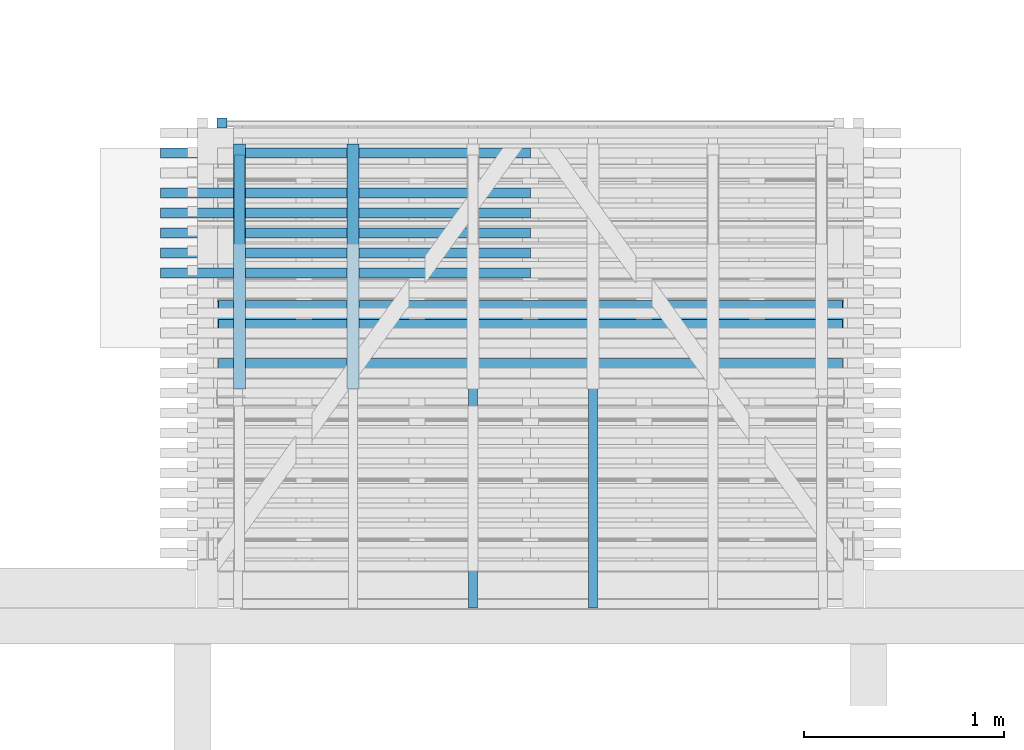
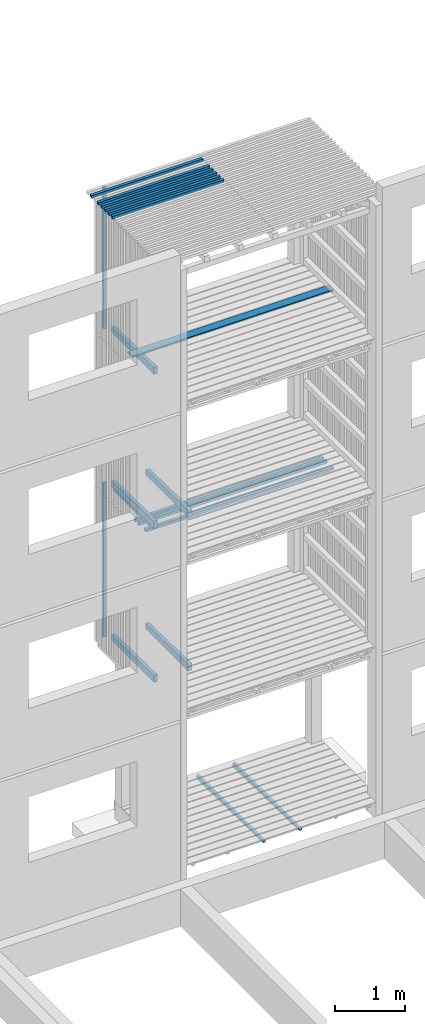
# One storey, part 94 of 182: 20 beams.
"""IFC2X3 building model written with IfcOpenShell, lengths in metres."""

import ifcopenshell
import ifcopenshell.guid

model = None  # the IFC model being written
_history = None  # IfcOwnerHistory: only IFC2X3 demands one
_inside = {}  # id of a spatial element -> (the spatial element, [elements in it])
_under = {}  # id of a project, library or spatial element -> (it, [spatial elements below it])
_declared = {}  # id of a project -> (the project, [libraries it declares])
_typed = {}  # id of a type object -> (the type object, [elements of that type])
_made_of = {}  # id of a material, layer set ... -> (it, [elements and type objects made of it])


def new_model(schema):
    """Start an empty IFC model of exactly this schema.

    Asked for "IFC4X3", IfcOpenShell would pick the latest addendum, in which some entities
    have other attributes; the version numbers below select the first issue.
    IFC2X3 requires an IfcOwnerHistory on every rooted entity: one is made here for all.
    """
    global model, _history
    if schema == "IFC4X3":
        model = ifcopenshell.file(schema_version=(4, 3, 0, 0))
    else:
        model = ifcopenshell.file(schema=schema)
    _inside.clear()
    _under.clear()
    _declared.clear()
    _typed.clear()
    _made_of.clear()
    _history = None
    if model.schema == "IFC2X3":
        org = make("IfcOrganization", Name="unknown")
        user = make(
            "IfcPersonAndOrganization",
            ThePerson=make("IfcPerson", FamilyName="unknown"),
            TheOrganization=org,
        )
        app = make(
            "IfcApplication",
            ApplicationDeveloper=org,
            Version="unknown",
            ApplicationFullName="unknown",
            ApplicationIdentifier="unknown",
        )
        _history = make(
            "IfcOwnerHistory",
            OwningUser=user,
            OwningApplication=app,
            ChangeAction="ADDED",
            CreationDate=0,
        )
    return model


def make(cls, **values):
    """One entity of the class cls with the attributes given. An attribute that is None is left unset."""
    return model.create_entity(
        cls, **{name: value for name, value in values.items() if value is not None}
    )


def rooted(cls, **values):
    """An entity with a GlobalId (a new one), such as an element, a storey or a relation."""
    return make(cls, GlobalId=ifcopenshell.guid.new(), OwnerHistory=_history, **values)


def si_unit(unit_type, name, prefix=None):
    """IfcSIUnit, for example si_unit("LENGTHUNIT", "METRE", prefix="MILLI")."""
    return make("IfcSIUnit", UnitType=unit_type, Prefix=prefix, Name=name)


def assignment(units):
    """IfcUnitAssignment: the units of a project."""
    return None if units is None else make("IfcUnitAssignment", Units=units)


def point(xyz):
    """IfcCartesianPoint."""
    return None if xyz is None else make("IfcCartesianPoint", Coordinates=xyz)


def direction(xyz):
    """IfcDirection."""
    return None if xyz is None else make("IfcDirection", DirectionRatios=xyz)


def frame(location, z_axis=None, x_axis=None):
    """IfcAxis2Placement3D, a coordinate frame: its origin and axes. An axis left out is left unset."""
    return make(
        "IfcAxis2Placement3D",
        Location=point(location),
        Axis=direction(z_axis),
        RefDirection=direction(x_axis),
    )


def origin():
    """The frame at (0, 0, 0) with its axes left unset."""
    return frame((0.0, 0.0, 0.0))


def place(relative_to, where):
    """IfcLocalPlacement: puts the frame where relative to a parent placement (None: the world)."""
    return make(
        "IfcLocalPlacement", PlacementRelTo=relative_to, RelativePlacement=where
    )


def context(
    kind, dimensions, precision=None, world=None, true_north=None, identifier=None
):
    """IfcGeometricRepresentationContext, for example the 3D "Model" context."""
    return make(
        "IfcGeometricRepresentationContext",
        ContextIdentifier=identifier,
        ContextType=kind,
        CoordinateSpaceDimension=dimensions,
        Precision=precision,
        WorldCoordinateSystem=world,
        TrueNorth=true_north,
    )


def project(units=None, contexts=None):
    """IfcProject with its units and contexts."""
    return rooted(
        "IfcProject",
        Name="project",
        RepresentationContexts=contexts,
        UnitsInContext=assignment(units),
    )


def spatial(cls, under=None, at=None, **own):
    """A site, building, storey or space (cls), placed at a placement, below another one or the project."""
    s = rooted(cls, ObjectPlacement=at, **own)
    if under is not None:
        _under.setdefault(under.id(), (under, []))[1].append(s)
    return s


def faces_of(points, faces, orient=None, outer=None):
    """IfcFace entities. A face is a list of loops; a loop is a list of indices into points, from 0.

    orient and outer hold one flag for each loop. By default every Orientation is true, the
    first loop of a face is its IfcFaceOuterBound and the others are IfcFaceBound.
    """
    made = []
    for i, loops in enumerate(faces):
        bounds = []
        for j, loop in enumerate(loops):
            is_outer = j == 0 if outer is None else outer[i][j]
            bounds.append(
                make(
                    "IfcFaceOuterBound" if is_outer else "IfcFaceBound",
                    Bound=make("IfcPolyLoop", Polygon=[points[k] for k in loop]),
                    Orientation=True if orient is None else orient[i][j],
                )
            )
        made.append(make("IfcFace", Bounds=bounds))
    return made


def faceted_brep(points, faces, orient=None, outer=None, voids=None):
    """IfcFacetedBrep: a solid bounded by flat faces; with voids (closed shells), ...WithVoids."""
    shared = [point(p) for p in points]
    hull = make("IfcClosedShell", CfsFaces=faces_of(shared, faces, orient, outer))
    if voids is None:
        return make("IfcFacetedBrep", Outer=hull)
    return make(
        "IfcFacetedBrepWithVoids",
        Outer=hull,
        Voids=[
            make(cls, CfsFaces=faces_of(shared, fs, o, b)) for cls, fs, o, b in voids
        ],
    )


def shape(context_of_items, identifier, shape_type, items):
    """IfcShapeRepresentation: the items that make up one representation, for example the "Body"."""
    return make(
        "IfcShapeRepresentation",
        ContextOfItems=context_of_items,
        RepresentationIdentifier=identifier,
        RepresentationType=shape_type,
        Items=items,
    )


def made_of(thing, what):
    """Note that an element or type object is made of a material, layer set ...; save() writes the relation."""
    if what is not None:
        _made_of.setdefault(what.id(), (what, []))[1].append(thing)
    return thing


def element(
    cls,
    number,
    at=None,
    inside=None,
    cuts=None,
    type_object=None,
    material=None,
    context=None,
    identifier="Body",
    shape_type=None,
    held_by="IfcProductDefinitionShape",
    body=None,
    shapes=None,
    **own,
):
    """One element of the class cls, such as IfcWall. Its Tag is "e" and its number.

    at: its placement. inside: the storey or other place that contains it. cuts: it is an
    opening in that element (IfcRelVoidsElement). A single representation is given by context,
    identifier, shape_type and body (its items); several are given by shapes. held_by: the class
    of the entity that holds the representations. save() writes the other relations.
    """
    e = rooted(cls, Tag="e%d" % number, ObjectPlacement=at, **own)
    if body is not None:
        shapes = [shape(context, identifier, shape_type, body)]
    if shapes is not None:
        e.Representation = make(held_by, Representations=shapes)
    if inside is not None:
        _inside.setdefault(inside.id(), (inside, []))[1].append(e)
    if cuts is not None:
        rooted(
            "IfcRelVoidsElement", RelatingBuildingElement=cuts, RelatedOpeningElement=e
        )
    if type_object is not None:
        _typed.setdefault(type_object.id(), (type_object, []))[1].append(e)
    return made_of(e, material)


def aggregate(whole, parts):
    """IfcRelAggregates: a whole, such as a stair, and the parts it consists of."""
    return rooted("IfcRelAggregates", RelatingObject=whole, RelatedObjects=parts)


def save(model, path):
    """Write the relations noted so far, then the file.

    IfcRelAggregates (storeys below a building ...), IfcRelContainedInSpatialStructure (elements
    in a storey), IfcRelDefinesByType, IfcRelAssociatesMaterial and IfcRelDeclares: one each for
    every whole, place, type object, material and project.
    """
    for whole, parts in _under.values():
        aggregate(whole, parts)
    for where, things in _inside.values():
        rooted(
            "IfcRelContainedInSpatialStructure",
            RelatedElements=things,
            RelatingStructure=where,
        )
    for kind, things in _typed.values():
        rooted("IfcRelDefinesByType", RelatedObjects=things, RelatingType=kind)
    for what, things in _made_of.values():
        rooted("IfcRelAssociatesMaterial", RelatedObjects=things, RelatingMaterial=what)
    for by, libraries in _declared.values():
        rooted("IfcRelDeclares", RelatingContext=by, RelatedDefinitions=libraries)
    model.write(path)


model = new_model("IFC2X3")

# Units and contexts
model_context = context("Model", 3, precision=1e-06, world=origin())
ifc_project = project(units=[si_unit("LENGTHUNIT", "METRE"), si_unit("PLANEANGLEUNIT", "RADIAN")], contexts=[model_context])

# Site, building, storey
site = spatial("IfcSite", under=ifc_project, CompositionType="ELEMENT")
building = spatial("IfcBuilding", under=site, CompositionType="ELEMENT")
storey = spatial("IfcBuildingStorey", under=building, Name="vs", CompositionType="ELEMENT", Elevation=-0.85)

# Beams
placement = place(None, origin())
beam_1_placement = place(placement, frame((44.993401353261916, 4.870077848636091, -0.015599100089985), z_axis=(0.0, 0.0, 1.0), x_axis=(0.0, 1.0, 0.0)))
element("IfcBeam", 1, at=beam_1_placement, inside=storey, Name="Calage", context=model_context, shape_type="Brep", body=[
    faceted_brep([(0.0, 0.02249999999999, 0.002600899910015), (1.91000000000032, 0.02249999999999, -0.035599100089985), (1.91000000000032, -0.022499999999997, -0.035599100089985), (0.0, -0.022499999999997, 0.002600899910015), (0.0, -0.022499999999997, 0.035599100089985), (0.0, 0.02249999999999, 0.035599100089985), (0.0, 0.02249999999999, 0.002600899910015), (0.0, -0.022499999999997, 0.002600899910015), (0.0, 0.02249999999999, 0.035599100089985), (0.0, -0.022499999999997, 0.035599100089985), (1.91000000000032, -0.022499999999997, 0.035599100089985), (1.91000000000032, 0.02249999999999, 0.035599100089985), (0.0, 0.02249999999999, 0.002600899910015), (0.0, 0.02249999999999, 0.035599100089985), (1.91000000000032, 0.02249999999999, 0.035599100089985), (1.91000000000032, 0.02249999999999, -0.035599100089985), (1.91000000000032, 0.02249999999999, -0.035599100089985), (1.91000000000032, 0.02249999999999, 0.035599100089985), (1.91000000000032, -0.022499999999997, 0.035599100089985), (1.91000000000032, -0.022499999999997, -0.035599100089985), (1.91000000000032, -0.022499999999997, -0.035599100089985), (1.91000000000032, -0.022499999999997, 0.035599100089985), (0.0, -0.022499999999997, 0.035599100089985), (0.0, -0.022499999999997, 0.002600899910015)], [[[0, 1, 2, 3]], [[4, 5, 6, 7]], [[8, 9, 10, 11]], [[12, 13, 14, 15]], [[16, 17, 18, 19]], [[20, 21, 22, 23]]]),
])
beam_2_placement = place(placement, frame((44.39340135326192, 4.870077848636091, -0.015599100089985), z_axis=(0.0, 0.0, 1.0), x_axis=(0.0, 1.0, 0.0)))
element("IfcBeam", 2, at=beam_2_placement, inside=storey, Name="Calage", context=model_context, shape_type="Brep", body=[
    faceted_brep([(0.0, 0.022500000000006, 0.002600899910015), (1.91000000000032, 0.022500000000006, -0.035599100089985), (1.91000000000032, -0.022499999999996, -0.035599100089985), (0.0, -0.022499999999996, 0.002600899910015), (0.0, -0.022499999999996, 0.035599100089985), (0.0, 0.022500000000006, 0.035599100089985), (0.0, 0.022500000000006, 0.002600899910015), (0.0, -0.022499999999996, 0.002600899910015), (0.0, 0.022500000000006, 0.035599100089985), (0.0, -0.022499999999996, 0.035599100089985), (1.910000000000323, -0.022499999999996, 0.035599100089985), (1.910000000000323, 0.022500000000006, 0.035599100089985), (0.0, 0.022500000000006, 0.002600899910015), (0.0, 0.022500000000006, 0.035599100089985), (1.910000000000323, 0.022500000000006, 0.035599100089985), (1.91000000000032, 0.022500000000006, -0.035599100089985), (1.91000000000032, 0.022500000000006, -0.035599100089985), (1.910000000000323, 0.022500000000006, 0.035599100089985), (1.910000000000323, -0.022499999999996, 0.035599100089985), (1.91000000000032, -0.022499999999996, -0.035599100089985), (1.91000000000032, -0.022499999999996, -0.035599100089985), (1.910000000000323, -0.022499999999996, 0.035599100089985), (0.0, -0.022499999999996, 0.035599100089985), (0.0, -0.022499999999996, 0.002600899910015)], [[[0, 1, 2, 3]], [[4, 5, 6, 7]], [[8, 9, 10, 11]], [[12, 13, 14, 15]], [[16, 17, 18, 19]], [[20, 21, 22, 23]]]),
])
beam_3_placement = place(placement, frame((46.240401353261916, 6.38341118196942, 5.167399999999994), z_axis=(0.0, 0.0, 1.0), x_axis=(-1.0, 0.0, 0.0)))
element("IfcBeam", 3, at=beam_3_placement, inside=storey, Name="Bardage", context=model_context, shape_type="Brep", body=[
    faceted_brep([(3.120000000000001, 0.024999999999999, -0.024999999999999), (3.120000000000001, 0.024999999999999, 0.025), (3.120000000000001, -0.025000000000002, 0.025), (3.120000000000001, -0.025000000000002, -0.024999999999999), (-3e-15, -0.025000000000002, -0.024999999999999), (-3e-15, -0.025000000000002, 0.025), (-3e-15, 0.024999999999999, 0.025), (-3e-15, 0.024999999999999, -0.024999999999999), (-3e-15, 0.024999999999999, -0.024999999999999), (-3e-15, 0.024999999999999, 0.025), (3.120000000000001, 0.024999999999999, 0.025), (3.120000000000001, 0.024999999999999, -0.024999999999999), (-3e-15, 0.024999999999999, 0.025), (-3e-15, -0.025000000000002, 0.025), (3.120000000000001, -0.025000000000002, 0.025), (3.120000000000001, 0.024999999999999, 0.025), (-3e-15, -0.025000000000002, 0.025), (-3e-15, -0.025000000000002, -0.024999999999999), (3.120000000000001, -0.025000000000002, -0.024999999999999), (3.120000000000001, -0.025000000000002, 0.025), (-3e-15, -0.025000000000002, -0.024999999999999), (-3e-15, 0.024999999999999, -0.024999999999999), (3.120000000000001, 0.024999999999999, -0.024999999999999), (3.120000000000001, -0.025000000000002, -0.024999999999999)], [[[0, 1, 2, 3]], [[4, 5, 6, 7]], [[8, 9, 10, 11]], [[12, 13, 14, 15]], [[16, 17, 18, 19]], [[20, 21, 22, 23]]]),
])
beam_4_placement = place(placement, frame((46.240401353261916, 6.286327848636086, 5.167399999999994), z_axis=(0.0, 0.0, 1.0), x_axis=(-1.0, 0.0, 0.0)))
element("IfcBeam", 4, at=beam_4_placement, inside=storey, Name="Bardage", context=model_context, shape_type="Brep", body=[
    faceted_brep([(3.120000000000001, 0.024999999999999, -0.024999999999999), (3.120000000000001, 0.024999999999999, 0.025), (3.120000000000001, -0.024999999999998, 0.025), (3.120000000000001, -0.024999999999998, -0.024999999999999), (-3e-15, -0.025000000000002, -0.024999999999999), (-3e-15, -0.025000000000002, 0.025), (-3e-15, 0.024999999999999, 0.025), (-3e-15, 0.024999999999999, -0.024999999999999), (-3e-15, 0.024999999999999, -0.024999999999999), (-3e-15, 0.024999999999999, 0.025), (3.120000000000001, 0.024999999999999, 0.025), (3.120000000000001, 0.024999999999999, -0.024999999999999), (-3e-15, 0.024999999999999, 0.025), (-3e-15, -0.025000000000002, 0.025), (3.120000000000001, -0.024999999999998, 0.025), (3.120000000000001, 0.024999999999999, 0.025), (-3e-15, -0.025000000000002, 0.025), (-3e-15, -0.025000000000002, -0.024999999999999), (3.120000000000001, -0.024999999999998, -0.024999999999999), (3.120000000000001, -0.024999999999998, 0.025), (-3e-15, -0.025000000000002, -0.024999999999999), (-3e-15, 0.024999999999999, -0.024999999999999), (3.120000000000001, 0.024999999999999, -0.024999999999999), (3.120000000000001, -0.024999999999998, -0.024999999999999)], [[[0, 1, 2, 3]], [[4, 5, 6, 7]], [[8, 9, 10, 11]], [[12, 13, 14, 15]], [[16, 17, 18, 19]], [[20, 21, 22, 23]]]),
])
beam_5_placement = place(placement, frame((46.34540135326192, 6.33457784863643, 8.13349999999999), z_axis=(0.0, 0.0, 1.0), x_axis=(-1.0, -8e-15, 0.0)))
element("IfcBeam", 5, at=beam_5_placement, inside=storey, Name="Caillebotis", context=model_context, shape_type="Brep", body=[
    faceted_brep([(3.329999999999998, -0.072500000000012, -0.013500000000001), (3.329999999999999, 0.072499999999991, -0.013500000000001), (3.329999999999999, 0.072499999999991, 0.008499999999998), (3.329999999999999, 0.067499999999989, 0.013499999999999), (3.329999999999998, -0.067500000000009, 0.013499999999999), (3.329999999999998, -0.072500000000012, 0.0085), (-1e-15, -0.072499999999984, 0.0085), (-1e-15, -0.067499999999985, 0.013499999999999), (1e-15, 0.067500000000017, 0.013499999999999), (1e-15, 0.072500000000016, 0.008499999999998), (1e-15, 0.072500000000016, -0.013500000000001), (-1e-15, -0.072499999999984, -0.013500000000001), (3.329999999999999, 0.072499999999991, 0.008499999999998), (3.329999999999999, 0.072499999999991, -0.013500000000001), (1e-15, 0.072500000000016, -0.013500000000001), (1e-15, 0.072500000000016, 0.008499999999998), (3.329999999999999, 0.067499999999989, 0.013499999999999), (3.329999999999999, 0.072499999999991, 0.008499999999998), (1e-15, 0.072500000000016, 0.008499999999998), (1e-15, 0.067500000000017, 0.013499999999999), (3.329999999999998, -0.067500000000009, 0.013499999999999), (3.329999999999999, 0.067499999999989, 0.013499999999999), (1e-15, 0.067500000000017, 0.013499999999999), (-1e-15, -0.067499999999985, 0.013499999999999), (3.329999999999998, -0.072500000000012, 0.0085), (3.329999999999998, -0.067500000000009, 0.013499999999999), (-1e-15, -0.067499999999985, 0.013499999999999), (-1e-15, -0.072499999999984, 0.0085), (3.329999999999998, -0.072500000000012, -0.013500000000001), (3.329999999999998, -0.072500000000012, 0.0085), (-1e-15, -0.072499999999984, 0.0085), (-1e-15, -0.072499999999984, -0.013500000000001), (1e-15, 0.072500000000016, -0.013500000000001), (3.329999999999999, 0.072499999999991, -0.013500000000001), (3.329999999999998, -0.072500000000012, -0.013500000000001), (-1e-15, -0.072499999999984, -0.013500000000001)], [[[0, 1, 2, 3, 4, 5]], [[6, 7, 8, 9, 10, 11]], [[12, 13, 14, 15]], [[16, 17, 18, 19]], [[20, 21, 22, 23]], [[24, 25, 26, 27]], [[28, 29, 30, 31]], [[32, 33, 34, 35]]]),
])
beam_6_placement = place(placement, frame((46.240401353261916, 6.092161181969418, 5.167399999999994), z_axis=(0.0, 0.0, 1.0), x_axis=(-1.0, 0.0, 0.0)))
element("IfcBeam", 6, at=beam_6_placement, inside=storey, Name="Bardage", context=model_context, shape_type="Brep", body=[
    faceted_brep([(3.120000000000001, 0.024999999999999, -0.025), (3.120000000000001, 0.024999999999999, 0.025), (3.120000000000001, -0.024999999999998, 0.025), (3.120000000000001, -0.024999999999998, -0.025), (-3e-15, -0.025000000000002, -0.025), (-3e-15, -0.025000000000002, 0.025), (-3e-15, 0.024999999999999, 0.025), (-3e-15, 0.024999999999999, -0.025), (-3e-15, 0.024999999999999, -0.025), (-3e-15, 0.024999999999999, 0.025), (3.120000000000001, 0.024999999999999, 0.025), (3.120000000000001, 0.024999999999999, -0.025), (-3e-15, 0.024999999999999, 0.025), (-3e-15, -0.025000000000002, 0.025), (3.120000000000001, -0.024999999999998, 0.025), (3.120000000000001, 0.024999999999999, 0.025), (-3e-15, -0.025000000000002, 0.025), (-3e-15, -0.025000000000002, -0.025), (3.120000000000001, -0.024999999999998, -0.025), (3.120000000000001, -0.024999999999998, 0.025), (-3e-15, -0.025000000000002, -0.025), (-3e-15, 0.024999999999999, -0.025), (3.120000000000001, 0.024999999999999, -0.025), (3.120000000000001, -0.024999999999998, -0.025)], [[[0, 1, 2, 3]], [[4, 5, 6, 7]], [[8, 9, 10, 11]], [[12, 13, 14, 15]], [[16, 17, 18, 19]], [[20, 21, 22, 23]]]),
])
beam_7_placement = place(placement, frame((44.68040135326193, 6.74507784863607, 10.47999999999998), z_axis=(0.0, 0.0, 1.0), x_axis=(-1.0, 0.0, 0.0)))
element("IfcBeam", 7, at=beam_7_placement, inside=storey, Name="Bardage", context=model_context, shape_type="Brep", body=[
    faceted_brep([(1.850000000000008, -0.024999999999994, -0.024999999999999), (1.850000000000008, -0.024999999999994, 0.025000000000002), (-1e-15, -0.024999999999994, 0.025000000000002), (-1e-15, -0.024999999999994, -0.024999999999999), (1.850000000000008, -0.024999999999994, 0.025000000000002), (1.850000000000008, -0.024999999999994, -0.024999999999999), (1.850000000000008, 0.025000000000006, -0.024999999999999), (1.850000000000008, 0.025000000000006, 0.025000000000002), (1.850000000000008, 0.025000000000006, -0.024999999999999), (1.850000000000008, -0.024999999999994, -0.024999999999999), (-1e-15, -0.024999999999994, -0.024999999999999), (-1e-15, 0.025000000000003, -0.024999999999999), (1.850000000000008, 0.025000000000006, 0.025000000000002), (1.850000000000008, 0.025000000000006, -0.024999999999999), (-1e-15, 0.025000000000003, -0.024999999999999), (-1e-15, 0.025000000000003, 0.025000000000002), (-1e-15, -0.024999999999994, 0.025000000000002), (1.850000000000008, -0.024999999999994, 0.025000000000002), (1.850000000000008, 0.025000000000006, 0.025000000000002), (-1e-15, 0.025000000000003, 0.025000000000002), (-1e-15, -0.024999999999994, -0.024999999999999), (-1e-15, -0.024999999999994, 0.025000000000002), (-1e-15, 0.025000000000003, 0.025000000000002), (-1e-15, 0.025000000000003, -0.024999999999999)], [[[0, 1, 2, 3]], [[4, 5, 6, 7]], [[8, 9, 10, 11]], [[12, 13, 14, 15]], [[16, 17, 18, 19]], [[20, 21, 22, 23]]]),
])
beam_8_placement = place(placement, frame((43.225401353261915, 7.135077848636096, 5.217399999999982), z_axis=(0.0, 0.0, 1.0), x_axis=(0.0, -1.0, 0.0)))
element("IfcBeam", 8, at=beam_8_placement, inside=storey, Name="Calage", context=model_context, shape_type="Brep", body=[
    faceted_brep([(0.0, 0.025000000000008, -0.024999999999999), (0.0, -0.024999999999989, -0.024999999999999), (0.0, -0.024999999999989, 0.024999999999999), (0.0, 0.025000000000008, 0.024999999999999), (1.115000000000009, -0.024999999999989, 0.024999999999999), (1.115000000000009, -0.024999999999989, -0.024999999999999), (1.115000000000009, 0.025000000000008, -0.024999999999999), (1.115000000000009, 0.025000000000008, 0.024999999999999), (0.0, -0.024999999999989, 0.024999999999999), (0.0, -0.024999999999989, -0.024999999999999), (1.115000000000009, -0.024999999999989, -0.024999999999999), (1.115000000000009, -0.024999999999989, 0.024999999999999), (1.115000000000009, -0.024999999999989, -0.024999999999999), (0.0, -0.024999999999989, -0.024999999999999), (0.0, 0.025000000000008, -0.024999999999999), (1.115000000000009, 0.025000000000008, -0.024999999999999), (1.115000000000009, 0.025000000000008, -0.024999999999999), (0.0, 0.025000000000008, -0.024999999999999), (0.0, 0.025000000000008, 0.024999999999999), (1.115000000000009, 0.025000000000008, 0.024999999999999), (1.115000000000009, 0.025000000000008, 0.024999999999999), (0.0, 0.025000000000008, 0.024999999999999), (0.0, -0.024999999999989, 0.024999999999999), (1.115000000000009, -0.024999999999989, 0.024999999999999)], [[[0, 1, 2, 3]], [[4, 5, 6, 7]], [[8, 9, 10, 11]], [[12, 13, 14, 15]], [[16, 17, 18, 19]], [[20, 21, 22, 23]]]),
])
beam_9_placement = place(placement, frame((43.79340135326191, 5.965077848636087, 2.604249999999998), z_axis=(0.0, 0.0, 1.0), x_axis=(0.0, 1.0, 0.0)))
element("IfcBeam", 9, at=beam_9_placement, inside=storey, Name="Solive", context=model_context, shape_type="Brep", body=[
    faceted_brep([(0.0, -0.030000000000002, -0.06185), (1.225000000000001, -0.030000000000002, -0.06185), (1.225000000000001, -0.030000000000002, 0.037349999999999), (0.0, -0.030000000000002, 0.06185), (0.0, 0.030000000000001, 0.06185), (0.0, 0.030000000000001, -0.06185), (0.0, -0.030000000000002, -0.06185), (0.0, -0.030000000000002, 0.06185), (0.0, -0.030000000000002, -0.06185), (0.0, 0.030000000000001, -0.06185), (1.225000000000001, 0.030000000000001, -0.06185), (1.225000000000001, -0.030000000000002, -0.06185), (1.225000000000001, 0.030000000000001, -0.06185), (0.0, 0.030000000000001, -0.06185), (0.0, 0.030000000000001, 0.06185), (1.225000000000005, 0.030000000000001, 0.037349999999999), (1.225000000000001, -0.030000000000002, 0.037349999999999), (1.225000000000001, -0.030000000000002, -0.06185), (1.225000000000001, 0.030000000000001, -0.06185), (1.225000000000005, 0.030000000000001, 0.037349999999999), (0.0, -0.030000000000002, 0.06185), (1.225000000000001, -0.030000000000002, 0.037349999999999), (1.225000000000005, 0.030000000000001, 0.037349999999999), (0.0, 0.030000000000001, 0.06185)], [[[0, 1, 2, 3]], [[4, 5, 6, 7]], [[8, 9, 10, 11]], [[12, 13, 14, 15]], [[16, 17, 18, 19]], [[20, 21, 22, 23]]]),
])
beam_10_placement = place(placement, frame((44.68040135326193, 6.845077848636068, 10.47999999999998), z_axis=(0.0, 0.0, 1.0), x_axis=(-1.0, -2e-15, 0.0)))
element("IfcBeam", 10, at=beam_10_placement, inside=storey, Name="Bardage", context=model_context, shape_type="Brep", body=[
    faceted_brep([(1.850000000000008, -0.025000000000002, -0.024999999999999), (1.850000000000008, -0.025000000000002, 0.025000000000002), (-1e-15, -0.024999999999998, 0.025000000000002), (-1e-15, -0.024999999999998, -0.024999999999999), (1.850000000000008, -0.025000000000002, 0.025000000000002), (1.850000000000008, -0.025000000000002, -0.024999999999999), (1.850000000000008, 0.025000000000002, -0.024999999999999), (1.850000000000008, 0.025000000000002, 0.025000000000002), (1.850000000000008, 0.025000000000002, -0.024999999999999), (1.850000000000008, -0.025000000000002, -0.024999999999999), (-1e-15, -0.024999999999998, -0.024999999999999), (0.0, 0.025000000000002, -0.024999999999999), (1.850000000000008, 0.025000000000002, 0.025000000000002), (1.850000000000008, 0.025000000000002, -0.024999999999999), (0.0, 0.025000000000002, -0.024999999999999), (0.0, 0.025000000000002, 0.025000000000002), (-1e-15, -0.024999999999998, 0.025000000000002), (1.850000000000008, -0.025000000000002, 0.025000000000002), (1.850000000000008, 0.025000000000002, 0.025000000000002), (0.0, 0.025000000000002, 0.025000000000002), (-1e-15, -0.024999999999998, -0.024999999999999), (-1e-15, -0.024999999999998, 0.025000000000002), (0.0, 0.025000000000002, 0.025000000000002), (0.0, 0.025000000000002, -0.024999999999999)], [[[0, 1, 2, 3]], [[4, 5, 6, 7]], [[8, 9, 10, 11]], [[12, 13, 14, 15]], [[16, 17, 18, 19]], [[20, 21, 22, 23]]]),
])
beam_11_placement = place(placement, frame((43.225401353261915, 5.965077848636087, 2.604249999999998), z_axis=(0.0, 0.0, 1.0), x_axis=(0.0, 1.0, 0.0)))
element("IfcBeam", 11, at=beam_11_placement, inside=storey, Name="Solive", context=model_context, shape_type="Brep", body=[
    faceted_brep([(0.0, -0.030000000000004, -0.06185), (1.225000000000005, -0.030000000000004, -0.06185), (1.225000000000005, -0.030000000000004, 0.037349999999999), (0.0, -0.030000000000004, 0.06185), (0.0, 0.029999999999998, -0.06185), (1.225000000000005, 0.029999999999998, -0.06185), (1.225000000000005, -0.030000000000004, -0.06185), (0.0, -0.030000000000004, -0.06185), (0.0, 0.029999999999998, 0.06185), (0.0, 0.029999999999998, -0.06185), (0.0, -0.030000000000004, -0.06185), (0.0, -0.030000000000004, 0.06185), (1.225000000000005, 0.029999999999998, -0.06185), (0.0, 0.029999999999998, -0.06185), (0.0, 0.029999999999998, 0.06185), (1.225000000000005, 0.029999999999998, 0.037349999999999), (1.225000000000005, -0.030000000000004, 0.037349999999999), (1.225000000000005, -0.030000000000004, -0.06185), (1.225000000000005, 0.029999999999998, -0.06185), (1.225000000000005, 0.029999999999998, 0.037349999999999), (0.0, -0.030000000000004, 0.06185), (1.225000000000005, -0.030000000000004, 0.037349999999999), (1.225000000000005, 0.029999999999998, 0.037349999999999), (0.0, 0.029999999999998, 0.06185)], [[[0, 1, 2, 3]], [[4, 5, 6, 7]], [[8, 9, 10, 11]], [[12, 13, 14, 15]], [[16, 17, 18, 19]], [[20, 21, 22, 23]]]),
])
beam_12_placement = place(placement, frame((43.13858317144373, 7.295077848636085, 7.974999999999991), z_axis=(0.0, -1.0, 0.0), x_axis=(0.0, 0.0, 1.0)))
element("IfcBeam", 12, at=beam_12_placement, inside=storey, Name="Bardage", context=model_context, shape_type="Brep", body=[
    faceted_brep([(2.479999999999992, -0.025000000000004, 0.024999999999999), (2.479999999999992, -0.025000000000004, -0.024999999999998), (2.479999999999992, 0.025000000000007, -0.024999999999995), (2.479999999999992, 0.024999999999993, 0.025000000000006), (0.0, 0.024999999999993, 0.025000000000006), (0.0, -0.025000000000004, 0.024999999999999), (2.479999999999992, -0.025000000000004, 0.024999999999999), (2.479999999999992, 0.024999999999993, 0.025000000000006), (0.0, -0.025000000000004, 0.024999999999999), (0.0, 0.024999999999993, 0.025000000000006), (0.0, 0.025000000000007, -0.024999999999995), (0.0, -0.025000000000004, -0.025000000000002), (0.0, 0.025000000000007, -0.024999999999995), (0.0, 0.024999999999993, 0.025000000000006), (2.479999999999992, 0.024999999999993, 0.025000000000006), (2.479999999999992, 0.025000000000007, -0.024999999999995), (0.0, -0.025000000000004, -0.025000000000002), (0.0, 0.025000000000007, -0.024999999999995), (2.479999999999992, 0.025000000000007, -0.024999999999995), (2.479999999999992, -0.025000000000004, -0.024999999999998), (2.479999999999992, -0.025000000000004, 0.024999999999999), (0.0, -0.025000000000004, 0.024999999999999), (0.0, -0.025000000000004, -0.025000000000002), (2.479999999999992, -0.025000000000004, -0.024999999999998)], [[[0, 1, 2, 3]], [[4, 5, 6, 7]], [[8, 9, 10, 11]], [[12, 13, 14, 15]], [[16, 17, 18, 19]], [[20, 21, 22, 23]]]),
])
beam_13_placement = place(placement, frame((44.68040135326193, 6.645077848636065, 10.47999999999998), z_axis=(0.0, 0.0, 1.0), x_axis=(-1.0, 0.0, 0.0)))
element("IfcBeam", 13, at=beam_13_placement, inside=storey, Name="Bardage", context=model_context, shape_type="Brep", body=[
    faceted_brep([(1.850000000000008, -0.024999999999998, -0.024999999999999), (1.850000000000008, -0.024999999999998, 0.025000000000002), (-1e-15, -0.024999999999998, 0.025000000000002), (-1e-15, -0.024999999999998, -0.024999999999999), (1.850000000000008, -0.024999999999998, 0.025000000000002), (1.850000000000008, -0.024999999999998, -0.024999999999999), (1.850000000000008, 0.024999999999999, -0.024999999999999), (1.850000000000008, 0.024999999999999, 0.025000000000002), (1.850000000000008, 0.024999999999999, -0.024999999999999), (1.850000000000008, -0.024999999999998, -0.024999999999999), (-1e-15, -0.024999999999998, -0.024999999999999), (-1e-15, 0.024999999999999, -0.024999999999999), (1.850000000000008, 0.024999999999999, 0.025000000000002), (1.850000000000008, 0.024999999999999, -0.024999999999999), (-1e-15, 0.024999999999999, -0.024999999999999), (-1e-15, 0.024999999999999, 0.025000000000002), (-1e-15, -0.024999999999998, 0.025000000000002), (1.850000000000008, -0.024999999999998, 0.025000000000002), (1.850000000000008, 0.024999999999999, 0.025000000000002), (-1e-15, 0.024999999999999, 0.025000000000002), (-1e-15, -0.024999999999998, -0.024999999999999), (-1e-15, -0.024999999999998, 0.025000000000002), (-1e-15, 0.024999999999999, 0.025000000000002), (-1e-15, 0.024999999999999, -0.024999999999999)], [[[0, 1, 2, 3]], [[4, 5, 6, 7]], [[8, 9, 10, 11]], [[12, 13, 14, 15]], [[16, 17, 18, 19]], [[20, 21, 22, 23]]]),
])
beam_14_placement = place(placement, frame((44.68040135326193, 6.545077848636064, 10.47999999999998), z_axis=(0.0, 0.0, 1.0), x_axis=(-1.0, 0.0, 0.0)))
element("IfcBeam", 14, at=beam_14_placement, inside=storey, Name="Bardage", context=model_context, shape_type="Brep", body=[
    faceted_brep([(1.850000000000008, -0.024999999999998, -0.024999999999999), (1.850000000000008, -0.024999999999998, 0.025000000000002), (-1e-15, -0.025000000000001, 0.025000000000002), (-1e-15, -0.025000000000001, -0.024999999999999), (1.850000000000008, -0.024999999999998, 0.025000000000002), (1.850000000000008, -0.024999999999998, -0.024999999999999), (1.850000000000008, 0.024999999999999, -0.024999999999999), (1.850000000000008, 0.024999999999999, 0.025000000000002), (1.850000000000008, 0.024999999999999, -0.024999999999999), (1.850000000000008, -0.024999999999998, -0.024999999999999), (-1e-15, -0.025000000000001, -0.024999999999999), (-1e-15, 0.024999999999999, -0.024999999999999), (1.850000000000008, 0.024999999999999, 0.025000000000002), (1.850000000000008, 0.024999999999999, -0.024999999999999), (-1e-15, 0.024999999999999, -0.024999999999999), (-1e-15, 0.024999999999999, 0.025000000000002), (-1e-15, -0.025000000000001, 0.025000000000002), (1.850000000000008, -0.024999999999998, 0.025000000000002), (1.850000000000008, 0.024999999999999, 0.025000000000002), (-1e-15, 0.024999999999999, 0.025000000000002), (-1e-15, -0.025000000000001, -0.024999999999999), (-1e-15, -0.025000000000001, 0.025000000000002), (-1e-15, 0.024999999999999, 0.025000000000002), (-1e-15, 0.024999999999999, -0.024999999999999)], [[[0, 1, 2, 3]], [[4, 5, 6, 7]], [[8, 9, 10, 11]], [[12, 13, 14, 15]], [[16, 17, 18, 19]], [[20, 21, 22, 23]]]),
])
beam_15_placement = place(placement, frame((43.13858317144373, 7.295077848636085, 2.575000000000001), z_axis=(0.0, -1.0, 0.0), x_axis=(0.0, 0.0, 1.0)))
element("IfcBeam", 15, at=beam_15_placement, inside=storey, Name="Bardage", context=model_context, shape_type="Brep", body=[
    faceted_brep([(0.0, -0.025000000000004, 0.024999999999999), (0.0, 0.024999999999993, 0.025000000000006), (0.0, 0.025000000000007, -0.024999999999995), (0.0, -0.025000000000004, -0.025000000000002), (2.699961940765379, 0.025000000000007, -0.024999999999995), (2.699961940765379, 0.024999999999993, 0.025000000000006), (2.699961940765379, -0.025000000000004, 0.024999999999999), (2.699961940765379, -0.025000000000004, -0.025000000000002), (0.0, -0.025000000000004, -0.025000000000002), (0.0, 0.025000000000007, -0.024999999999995), (2.699961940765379, 0.025000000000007, -0.024999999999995), (2.699961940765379, -0.025000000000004, -0.025000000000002), (2.699961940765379, 0.025000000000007, -0.024999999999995), (0.0, 0.025000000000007, -0.024999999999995), (0.0, 0.024999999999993, 0.025000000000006), (2.699961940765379, 0.024999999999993, 0.025000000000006), (2.699961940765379, 0.024999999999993, 0.025000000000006), (0.0, 0.024999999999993, 0.025000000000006), (0.0, -0.025000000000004, 0.024999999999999), (2.699961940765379, -0.025000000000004, 0.024999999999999), (2.699961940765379, -0.025000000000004, 0.024999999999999), (0.0, -0.025000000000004, 0.024999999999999), (0.0, -0.025000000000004, -0.025000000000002), (2.699961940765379, -0.025000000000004, -0.025000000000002)], [[[0, 1, 2, 3]], [[4, 5, 6, 7]], [[8, 9, 10, 11]], [[12, 13, 14, 15]], [[16, 17, 18, 19]], [[20, 21, 22, 23]]]),
])
beam_16_placement = place(placement, frame((44.68040135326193, 7.145077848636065, 10.47999999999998), z_axis=(0.0, 0.0, 1.0), x_axis=(-1.0, 0.0, 0.0)))
element("IfcBeam", 16, at=beam_16_placement, inside=storey, Name="Bardage", context=model_context, shape_type="Brep", body=[
    faceted_brep([(1.850000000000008, -0.024999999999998, -0.024999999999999), (1.850000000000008, -0.024999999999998, 0.025000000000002), (-1e-15, -0.024999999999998, 0.025000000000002), (-1e-15, -0.024999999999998, -0.024999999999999), (1.850000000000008, -0.024999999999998, 0.025000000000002), (1.850000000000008, -0.024999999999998, -0.024999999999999), (1.850000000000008, 0.024999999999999, -0.024999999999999), (1.850000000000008, 0.024999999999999, 0.025000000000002), (1.850000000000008, 0.024999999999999, -0.024999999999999), (1.850000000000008, -0.024999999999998, -0.024999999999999), (-1e-15, -0.024999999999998, -0.024999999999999), (-1e-15, 0.024999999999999, -0.024999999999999), (1.850000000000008, 0.024999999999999, 0.025000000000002), (1.850000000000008, 0.024999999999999, -0.024999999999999), (-1e-15, 0.024999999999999, -0.024999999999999), (-1e-15, 0.024999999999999, 0.025000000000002), (-1e-15, -0.024999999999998, 0.025000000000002), (1.850000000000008, -0.024999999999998, 0.025000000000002), (1.850000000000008, 0.024999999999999, 0.025000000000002), (-1e-15, 0.024999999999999, 0.025000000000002), (-1e-15, -0.024999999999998, -0.024999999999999), (-1e-15, -0.024999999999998, 0.025000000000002), (-1e-15, 0.024999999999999, 0.025000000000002), (-1e-15, 0.024999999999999, -0.024999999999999)], [[[0, 1, 2, 3]], [[4, 5, 6, 7]], [[8, 9, 10, 11]], [[12, 13, 14, 15]], [[16, 17, 18, 19]], [[20, 21, 22, 23]]]),
])
beam_17_placement = place(placement, frame((43.79340135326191, 5.965077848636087, 5.304249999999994), z_axis=(0.0, 0.0, 1.0), x_axis=(0.0, 1.0, 0.0)))
element("IfcBeam", 17, at=beam_17_placement, inside=storey, Name="Solive", context=model_context, shape_type="Brep", body=[
    faceted_brep([(0.0, -0.030000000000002, -0.061849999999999), (1.225000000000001, -0.030000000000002, -0.061849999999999), (1.225000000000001, -0.030000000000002, 0.03735), (0.0, -0.030000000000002, 0.06185), (0.0, 0.030000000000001, 0.061850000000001), (0.0, 0.030000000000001, -0.061849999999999), (0.0, -0.030000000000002, -0.061849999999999), (0.0, -0.030000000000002, 0.06185), (0.0, -0.030000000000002, -0.061849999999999), (0.0, 0.030000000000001, -0.061849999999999), (1.225000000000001, 0.030000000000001, -0.061849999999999), (1.225000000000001, -0.030000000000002, -0.061849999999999), (1.225000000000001, 0.030000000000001, -0.061849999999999), (0.0, 0.030000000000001, -0.061849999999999), (0.0, 0.030000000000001, 0.061850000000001), (1.225000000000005, 0.030000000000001, 0.03735), (1.225000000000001, -0.030000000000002, 0.03735), (1.225000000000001, -0.030000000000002, -0.061849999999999), (1.225000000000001, 0.030000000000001, -0.061849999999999), (1.225000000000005, 0.030000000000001, 0.03735), (0.0, -0.030000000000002, 0.06185), (1.225000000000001, -0.030000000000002, 0.03735), (1.225000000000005, 0.030000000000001, 0.03735), (0.0, 0.030000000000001, 0.061850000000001)], [[[0, 1, 2, 3]], [[4, 5, 6, 7]], [[8, 9, 10, 11]], [[12, 13, 14, 15]], [[16, 17, 18, 19]], [[20, 21, 22, 23]]]),
])
beam_18_placement = place(placement, frame((44.68040135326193, 6.945077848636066, 10.47999999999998), z_axis=(0.0, 0.0, 1.0), x_axis=(-1.0, -2e-15, 0.0)))
element("IfcBeam", 18, at=beam_18_placement, inside=storey, Name="Bardage", context=model_context, shape_type="Brep", body=[
    faceted_brep([(1.850000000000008, -0.025000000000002, -0.024999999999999), (1.850000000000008, -0.025000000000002, 0.025000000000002), (-1e-15, -0.025000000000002, 0.025000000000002), (-1e-15, -0.025000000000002, -0.024999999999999), (1.850000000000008, -0.025000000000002, 0.025000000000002), (1.850000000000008, -0.025000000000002, -0.024999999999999), (1.850000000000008, 0.024999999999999, -0.024999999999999), (1.850000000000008, 0.024999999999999, 0.025000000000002), (1.850000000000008, 0.024999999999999, -0.024999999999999), (1.850000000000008, -0.025000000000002, -0.024999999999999), (-1e-15, -0.025000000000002, -0.024999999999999), (0.0, 0.025000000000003, -0.024999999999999), (1.850000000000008, 0.024999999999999, 0.025000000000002), (1.850000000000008, 0.024999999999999, -0.024999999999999), (0.0, 0.025000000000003, -0.024999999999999), (0.0, 0.025000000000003, 0.025000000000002), (-1e-15, -0.025000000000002, 0.025000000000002), (1.850000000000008, -0.025000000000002, 0.025000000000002), (1.850000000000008, 0.024999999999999, 0.025000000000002), (0.0, 0.025000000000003, 0.025000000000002), (-1e-15, -0.025000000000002, -0.024999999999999), (-1e-15, -0.025000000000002, 0.025000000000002), (0.0, 0.025000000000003, 0.025000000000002), (0.0, 0.025000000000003, -0.024999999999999)], [[[0, 1, 2, 3]], [[4, 5, 6, 7]], [[8, 9, 10, 11]], [[12, 13, 14, 15]], [[16, 17, 18, 19]], [[20, 21, 22, 23]]]),
])
beam_19_placement = place(placement, frame((43.225401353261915, 5.965077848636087, 5.304249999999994), z_axis=(0.0, 0.0, 1.0), x_axis=(0.0, 1.0, 0.0)))
element("IfcBeam", 19, at=beam_19_placement, inside=storey, Name="Solive", context=model_context, shape_type="Brep", body=[
    faceted_brep([(0.0, -0.030000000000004, -0.061849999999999), (1.225000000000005, -0.030000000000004, -0.061849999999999), (1.225000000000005, -0.030000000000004, 0.03735), (0.0, -0.030000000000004, 0.06185), (0.0, 0.029999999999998, -0.061849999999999), (1.225000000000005, 0.029999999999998, -0.061849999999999), (1.225000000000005, -0.030000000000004, -0.061849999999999), (0.0, -0.030000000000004, -0.061849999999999), (0.0, 0.029999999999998, 0.061850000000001), (0.0, 0.029999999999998, -0.061849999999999), (0.0, -0.030000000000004, -0.061849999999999), (0.0, -0.030000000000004, 0.06185), (1.225000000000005, 0.029999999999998, -0.061849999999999), (0.0, 0.029999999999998, -0.061849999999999), (0.0, 0.029999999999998, 0.061850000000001), (1.225000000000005, 0.029999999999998, 0.03735), (1.225000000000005, -0.030000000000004, 0.03735), (1.225000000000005, -0.030000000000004, -0.061849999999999), (1.225000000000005, 0.029999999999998, -0.061849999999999), (1.225000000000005, 0.029999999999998, 0.03735), (0.0, -0.030000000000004, 0.06185), (1.225000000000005, -0.030000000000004, 0.03735), (1.225000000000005, 0.029999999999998, 0.03735), (0.0, 0.029999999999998, 0.061850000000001)], [[[0, 1, 2, 3]], [[4, 5, 6, 7]], [[8, 9, 10, 11]], [[12, 13, 14, 15]], [[16, 17, 18, 19]], [[20, 21, 22, 23]]]),
])
beam_20_placement = place(placement, frame((43.225401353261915, 5.965077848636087, 8.00424999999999), z_axis=(0.0, 0.0, 1.0), x_axis=(0.0, 1.0, 0.0)))
element("IfcBeam", 20, at=beam_20_placement, inside=storey, Name="Solive", context=model_context, shape_type="Brep", body=[
    faceted_brep([(0.0, -0.030000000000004, -0.061849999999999), (1.225000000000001, -0.030000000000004, -0.061849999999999), (1.225000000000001, -0.030000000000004, 0.037349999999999), (0.0, -0.030000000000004, 0.061849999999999), (0.0, 0.029999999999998, -0.061849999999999), (1.225000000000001, 0.029999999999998, -0.061849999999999), (1.225000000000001, -0.030000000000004, -0.061849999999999), (0.0, -0.030000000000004, -0.061849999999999), (0.0, 0.029999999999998, 0.061850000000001), (0.0, 0.029999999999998, -0.061849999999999), (0.0, -0.030000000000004, -0.061849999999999), (0.0, -0.030000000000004, 0.061849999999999), (1.225000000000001, 0.029999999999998, -0.061849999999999), (0.0, 0.029999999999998, -0.061849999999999), (0.0, 0.029999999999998, 0.061850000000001), (1.225000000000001, 0.029999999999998, 0.037349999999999), (1.225000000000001, -0.030000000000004, 0.037349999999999), (1.225000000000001, -0.030000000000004, -0.061849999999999), (1.225000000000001, 0.029999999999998, -0.061849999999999), (1.225000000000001, 0.029999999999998, 0.037349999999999), (0.0, -0.030000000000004, 0.061849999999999), (1.225000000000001, -0.030000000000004, 0.037349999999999), (1.225000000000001, 0.029999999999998, 0.037349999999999), (0.0, 0.029999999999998, 0.061850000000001)], [[[0, 1, 2, 3]], [[4, 5, 6, 7]], [[8, 9, 10, 11]], [[12, 13, 14, 15]], [[16, 17, 18, 19]], [[20, 21, 22, 23]]]),
])

save(model, "model.ifc")
